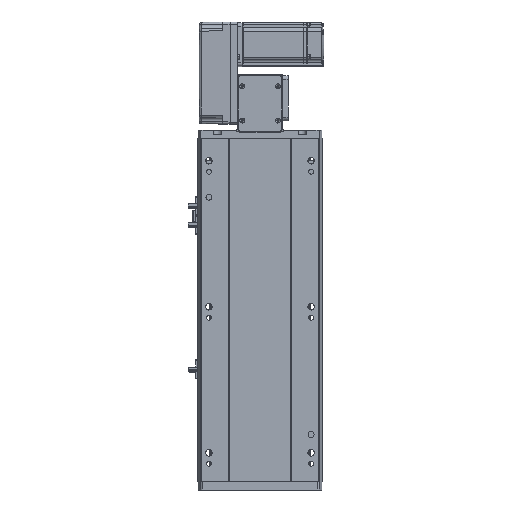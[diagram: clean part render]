
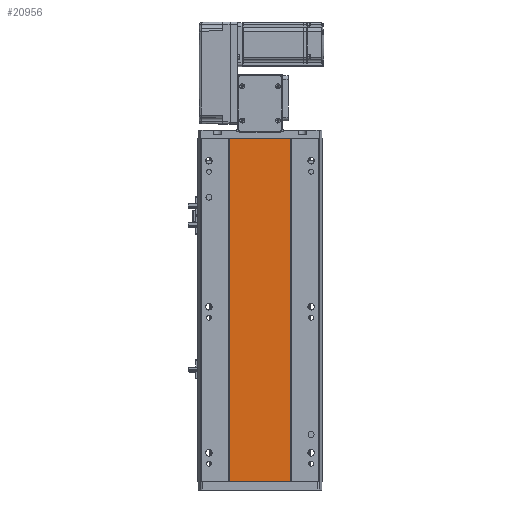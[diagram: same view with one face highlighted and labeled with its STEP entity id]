
A CAD part, front view. The second image highlights one B-rep face of the part: STEP entity #20956.
In plain terms, the highlighted planar face has unit normal (0, -1, 0).
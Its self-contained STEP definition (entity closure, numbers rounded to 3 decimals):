
#4824 = VECTOR ( 'NONE', #58288, 1000. ) ;
#5492 = PLANE ( 'NONE',  #57093 ) ;
#6134 = LINE ( 'NONE', #32093, #41971 ) ;
#7586 = CARTESIAN_POINT ( 'NONE',  ( 41.793, 0.998, 471. ) ) ;
#8323 = ORIENTED_EDGE ( 'NONE', *, *, #34595, .T. ) ;
#8616 = LINE ( 'NONE', #25004, #14485 ) ;
#8737 = EDGE_CURVE ( 'NONE', #58876, #37331, #46459, .T. ) ;
#9215 = CARTESIAN_POINT ( 'NONE',  ( -41.791, 1., 471. ) ) ;
#11704 = EDGE_CURVE ( 'NONE', #58876, #16853, #22417, .T. ) ;
#14485 = VECTOR ( 'NONE', #15847, 1000. ) ;
#14724 = CARTESIAN_POINT ( 'NONE',  ( 0., 0.999, 471. ) ) ;
#14922 = DIRECTION ( 'NONE',  ( -1., 0., 0. ) ) ;
#15684 = VERTEX_POINT ( 'NONE', #42870 ) ;
#15847 = DIRECTION ( 'NONE',  ( 1., 0., 0. ) ) ;
#16320 = ORIENTED_EDGE ( 'NONE', *, *, #11704, .T. ) ;
#16853 = VERTEX_POINT ( 'NONE', #32659 ) ;
#17716 = DIRECTION ( 'NONE',  ( 1., 0., 0. ) ) ;
#18200 = DIRECTION ( 'NONE',  ( 0., 0., -1. ) ) ;
#20956 = ADVANCED_FACE ( 'NONE', ( #48845 ), #5492, .F. ) ;
#22362 = ORIENTED_EDGE ( 'NONE', *, *, #8737, .F. ) ;
#22417 = LINE ( 'NONE', #53580, #4824 ) ;
#25004 = CARTESIAN_POINT ( 'NONE',  ( 0., 0.999, 0. ) ) ;
#32093 = CARTESIAN_POINT ( 'NONE',  ( 41.793, 0.998, 471. ) ) ;
#32659 = CARTESIAN_POINT ( 'NONE',  ( -41.791, 1., 0. ) ) ;
#33294 = DIRECTION ( 'NONE',  ( 0., 1., 0. ) ) ;
#34595 = EDGE_CURVE ( 'NONE', #16853, #15684, #8616, .T. ) ;
#36720 = EDGE_LOOP ( 'NONE', ( #8323, #57089, #22362, #16320 ) ) ;
#37331 = VERTEX_POINT ( 'NONE', #7586 ) ;
#41971 = VECTOR ( 'NONE', #18200, 1000. ) ;
#42870 = CARTESIAN_POINT ( 'NONE',  ( 41.793, 0.998, 0. ) ) ;
#46459 = LINE ( 'NONE', #50637, #52243 ) ;
#48845 = FACE_OUTER_BOUND ( 'NONE', #36720, .T. ) ;
#50637 = CARTESIAN_POINT ( 'NONE',  ( 0., 0.999, 471. ) ) ;
#52243 = VECTOR ( 'NONE', #17716, 1000. ) ;
#53580 = CARTESIAN_POINT ( 'NONE',  ( -41.791, 1., 471. ) ) ;
#57089 = ORIENTED_EDGE ( 'NONE', *, *, #57800, .F. ) ;
#57093 = AXIS2_PLACEMENT_3D ( 'NONE', #14724, #33294, #14922 ) ;
#57800 = EDGE_CURVE ( 'NONE', #37331, #15684, #6134, .T. ) ;
#58288 = DIRECTION ( 'NONE',  ( 0., 0., -1. ) ) ;
#58876 = VERTEX_POINT ( 'NONE', #9215 ) ;
